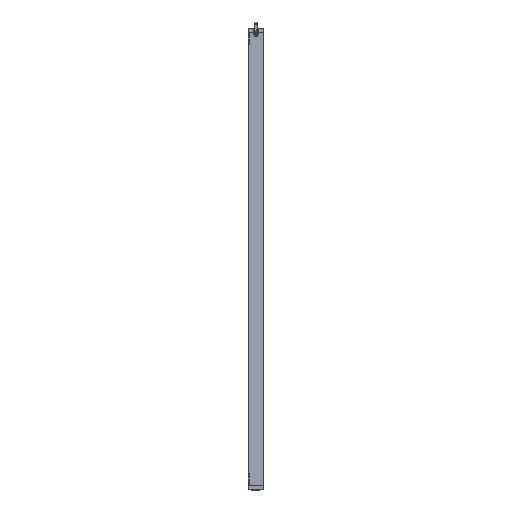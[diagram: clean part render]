
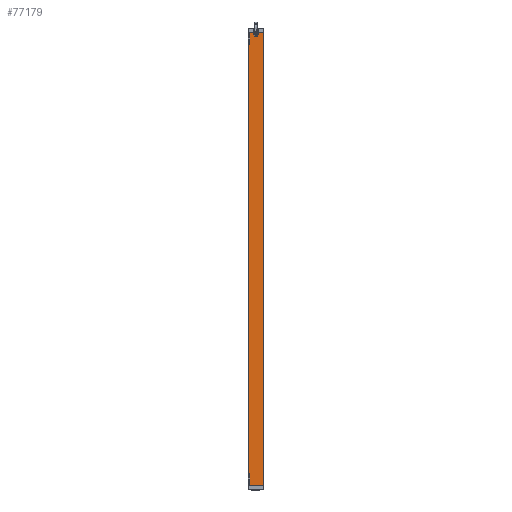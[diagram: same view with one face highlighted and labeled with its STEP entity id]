
A CAD part, left-side view. The second image highlights one B-rep face of the part: STEP entity #77179.
In plain terms, the highlighted planar face has unit normal (-1, 0, 0).
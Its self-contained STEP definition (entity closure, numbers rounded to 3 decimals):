
#2473 = FACE_OUTER_BOUND ( 'NONE', #10715, .T. ) ;
#4998 = CARTESIAN_POINT ( 'NONE',  ( -14., 6.8, 205. ) ) ;
#5233 = EDGE_CURVE ( 'NONE', #64377, #41080, #108829, .T. ) ;
#6205 = ORIENTED_EDGE ( 'NONE', *, *, #75924, .T. ) ;
#7027 = VERTEX_POINT ( 'NONE', #4998 ) ;
#10715 = EDGE_LOOP ( 'NONE', ( #6205, #70978, #71099, #26671 ) ) ;
#12715 = CARTESIAN_POINT ( 'NONE',  ( -14., -6.8, -205. ) ) ;
#15343 = CARTESIAN_POINT ( 'NONE',  ( -14., 6.8, -205. ) ) ;
#16704 = CARTESIAN_POINT ( 'NONE',  ( -14., 7., 205. ) ) ;
#17788 = LINE ( 'NONE', #26223, #70680 ) ;
#25381 = VECTOR ( 'NONE', #81111, 1000. ) ;
#26223 = CARTESIAN_POINT ( 'NONE',  ( -14., 6.8, 205. ) ) ;
#26671 = ORIENTED_EDGE ( 'NONE', *, *, #75208, .T. ) ;
#30099 = AXIS2_PLACEMENT_3D ( 'NONE', #75302, #74100, #30122 ) ;
#30122 = DIRECTION ( 'NONE',  ( 0., 1., 0. ) ) ;
#34972 = CARTESIAN_POINT ( 'NONE',  ( -14., 7., -205. ) ) ;
#37696 = VECTOR ( 'NONE', #53635, 1000. ) ;
#37996 = PLANE ( 'NONE',  #30099 ) ;
#41080 = VERTEX_POINT ( 'NONE', #51452 ) ;
#43097 = DIRECTION ( 'NONE',  ( 0., 0., -1. ) ) ;
#43833 = CARTESIAN_POINT ( 'NONE',  ( -14., -6.8, 205. ) ) ;
#47352 = VERTEX_POINT ( 'NONE', #15343 ) ;
#51452 = CARTESIAN_POINT ( 'NONE',  ( -14., -6.8, 205. ) ) ;
#53635 = DIRECTION ( 'NONE',  ( 0., -1., 0. ) ) ;
#55842 = VECTOR ( 'NONE', #81713, 1000. ) ;
#62662 = LINE ( 'NONE', #34972, #37696 ) ;
#64377 = VERTEX_POINT ( 'NONE', #12715 ) ;
#70680 = VECTOR ( 'NONE', #43097, 1000. ) ;
#70978 = ORIENTED_EDGE ( 'NONE', *, *, #5233, .T. ) ;
#71099 = ORIENTED_EDGE ( 'NONE', *, *, #110126, .F. ) ;
#74100 = DIRECTION ( 'NONE',  ( 1., 0., 0. ) ) ;
#75208 = EDGE_CURVE ( 'NONE', #7027, #47352, #17788, .T. ) ;
#75302 = CARTESIAN_POINT ( 'NONE',  ( -14., 7., 205. ) ) ;
#75924 = EDGE_CURVE ( 'NONE', #47352, #64377, #62662, .T. ) ;
#77179 = ADVANCED_FACE ( 'NONE', ( #2473 ), #37996, .F. ) ;
#81111 = DIRECTION ( 'NONE',  ( 0., -1., 0. ) ) ;
#81713 = DIRECTION ( 'NONE',  ( 0., 0., 1. ) ) ;
#108217 = LINE ( 'NONE', #16704, #25381 ) ;
#108829 = LINE ( 'NONE', #43833, #55842 ) ;
#110126 = EDGE_CURVE ( 'NONE', #7027, #41080, #108217, .T. ) ;
